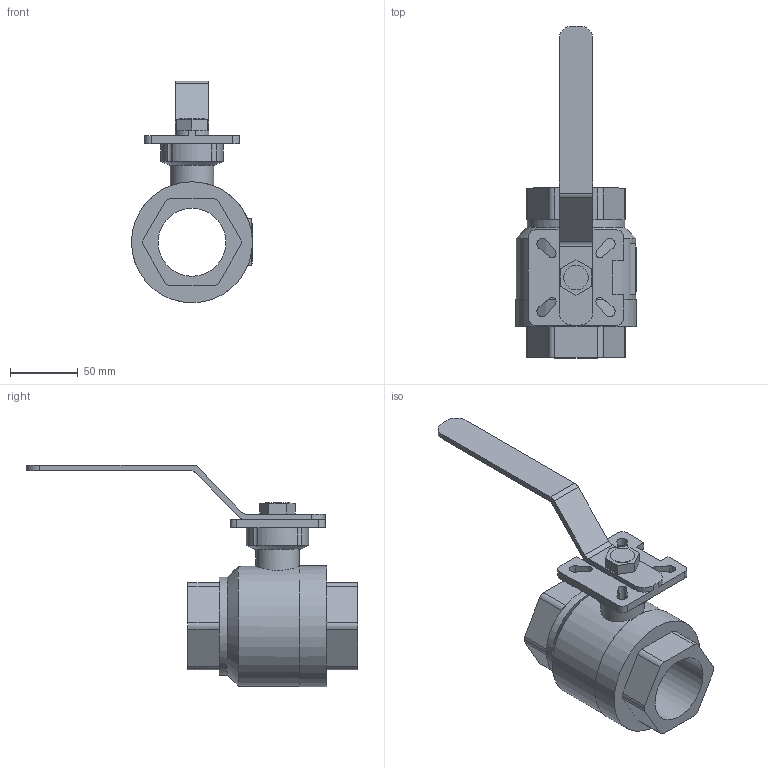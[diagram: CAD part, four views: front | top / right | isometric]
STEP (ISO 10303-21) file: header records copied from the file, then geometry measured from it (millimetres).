
FILE_DESCRIPTION(('STEP AP203'), '1');
FILE_NAME('3D_7015-050-63_1', '', ('UNSPECIFIED'), ('UNSPECIFIED'), 'C3D Converter', 'C3D Toolkit', '');
FILE_SCHEMA(('CONFIG_CONTROL_DESIGN'));
Length unit declared in the file: millimetre
Bounding box: 89 x 244 x 163 mm (x, y, z)
Volume: 480554.3 mm3; surface area: 88354.8 mm2
Topology: 11 solids, 11 shells, 946 faces, 2767 edges, 1842 vertices
Faces by surface type: plane 902, cylinder 42, cone 2
Full cylindrical faces by diameter (mm): 18 x1, 32 x1, 50 x1, 72 x1, 88 x1, 89 x1
Entity records: 39053 total; most frequent: CARTESIAN_POINT 6160, ORIENTED_EDGE 5518, DIRECTION 4767, EDGE_CURVE 2759, LINE 2631, VECTOR 2631, VERTEX_POINT 1842, AXIS2_PLACEMENT_3D 1068
